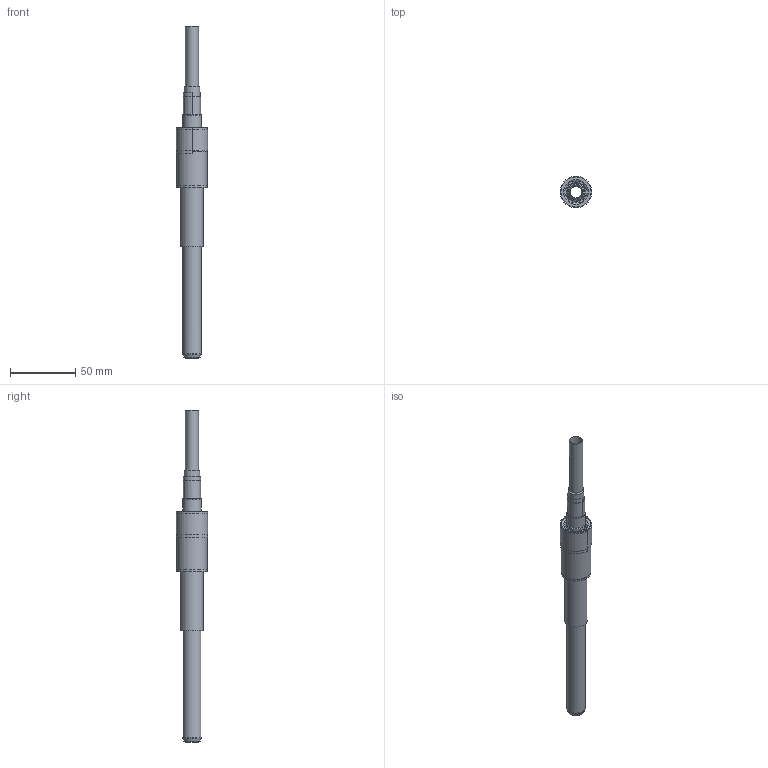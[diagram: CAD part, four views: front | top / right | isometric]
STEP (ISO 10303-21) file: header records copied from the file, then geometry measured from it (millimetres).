
FILE_DESCRIPTION(('STEP AP214'),'1');
FILE_NAME('LC-14200.stp','2025-10-28T13:31:04',(' '),(' '),'Spatial InterOp 3D',' ',' ');
FILE_SCHEMA(('AUTOMOTIVE_DESIGN { 1 0 10303 214 1 1 1 1 }'));
Length unit declared in the file: metre
Products named in the file (6): LC-14SU; LC-14SU-SEDE; LC-14P200; LC-14P200-SEDI
Bounding box: 24 x 24 x 253.75 mm (x, y, z)
Volume: 28916.8 mm3; surface area: 30881.1 mm2
Topology: 2 solids, 6 shells, 51 faces, 116 edges, 80 vertices
Faces by surface type: plane 23, cylinder 15, cone 10, torus 3
Full cylindrical faces by diameter (mm): 9 x1, 10 x1, 12.01 x1, 13.15 x1, 14 x2, 14.5 x1, 17 x1, 18.5 x1, 18.8 x1, 22.9 x1, 23 x1, 24 x1
Entity records: 2118 total; most frequent: CARTESIAN_POINT 283, DIRECTION 230, ORIENTED_EDGE 140, STYLED_ITEM 114, PRESENTATION_STYLE_ASSIGNMENT 114, COLOUR_RGB 114, AXIS2_PLACEMENT_3D 103, EDGE_LOOP 90
